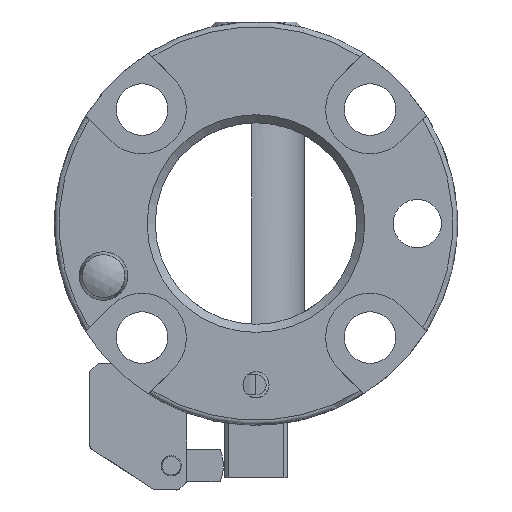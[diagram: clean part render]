
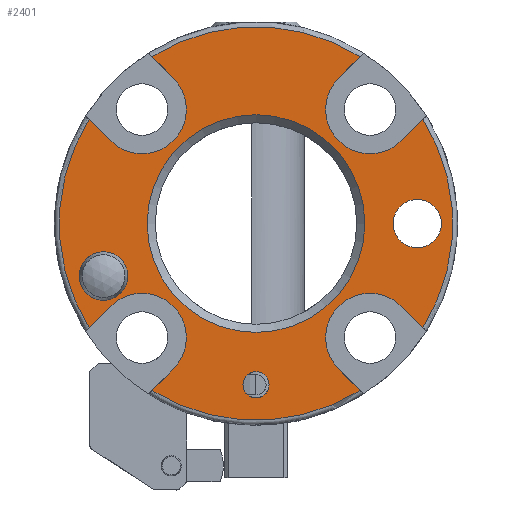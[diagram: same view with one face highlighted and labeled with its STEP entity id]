
A CAD part, front view. The second image highlights one B-rep face of the part: STEP entity #2401.
In plain terms, the highlighted planar face has unit normal (0, -1, 0).
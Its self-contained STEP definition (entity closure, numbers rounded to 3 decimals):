
#1126=CARTESIAN_POINT('',(20.,8.,-3.));
#1127=VERTEX_POINT('',#1126);
#1128=CARTESIAN_POINT('',(20.,8.,0.));
#1129=DIRECTION('',(0.0,1.0,0.0));
#1130=DIRECTION('',(0.0,0.0,1.0));
#1131=AXIS2_PLACEMENT_3D('',#1128,#1129,#1130);
#1132=CIRCLE('',#1131,3.);
#1133=EDGE_CURVE('',#1127,#1127,#1132,.T.);
#1186=CARTESIAN_POINT('',(0.,8.,-21.621));
#1187=VERTEX_POINT('',#1186);
#1188=CARTESIAN_POINT('',(0.,8.,-20.0));
#1189=DIRECTION('',(0.0,1.0,0.0));
#1190=DIRECTION('',(0.0,0.0,1.0));
#1191=AXIS2_PLACEMENT_3D('',#1188,#1189,#1190);
#1192=CIRCLE('',#1191,1.621);
#1193=EDGE_CURVE('',#1187,#1187,#1192,.T.);
#1389=CARTESIAN_POINT('',(0.,8.0,13.5));
#1390=VERTEX_POINT('',#1389);
#1391=CARTESIAN_POINT('',(0.,8.0,0.0));
#1392=DIRECTION('',(0.0,-1.0,0.0));
#1393=DIRECTION('',(0.0,0.0,-1.0));
#1394=AXIS2_PLACEMENT_3D('',#1391,#1392,#1393);
#1395=CIRCLE('',#1394,13.5);
#1396=EDGE_CURVE('',#1390,#1390,#1395,.T.);
#1479=CARTESIAN_POINT('',(18.031,8.,10.253));
#1480=VERTEX_POINT('',#1479);
#1488=CARTESIAN_POINT('',(10.253,8.,18.031));
#1489=VERTEX_POINT('',#1488);
#1496=CARTESIAN_POINT('',(14.142,8.,14.142));
#1497=DIRECTION('',(0.0,1.0,0.0));
#1498=DIRECTION('',(0.0,0.0,-1.0));
#1499=AXIS2_PLACEMENT_3D('',#1496,#1497,#1498);
#1500=CIRCLE('',#1499,5.5);
#1501=EDGE_CURVE('',#1480,#1489,#1500,.T.);
#1511=CARTESIAN_POINT('',(12.92,8.,20.698));
#1512=VERTEX_POINT('',#1511);
#1528=CARTESIAN_POINT('',(10.253,8.,18.031));
#1529=DIRECTION('',(0.707,0.0,0.707));
#1530=VECTOR('',#1529,3.772);
#1531=LINE('',#1528,#1530);
#1532=EDGE_CURVE('',#1489,#1512,#1531,.T.);
#1552=CARTESIAN_POINT('',(20.698,8.,12.92));
#1553=VERTEX_POINT('',#1552);
#1575=CARTESIAN_POINT('',(20.698,8.,12.92));
#1576=DIRECTION('',(-0.707,0.,-0.707));
#1577=VECTOR('',#1576,3.772);
#1578=LINE('',#1575,#1577);
#1579=EDGE_CURVE('',#1553,#1480,#1578,.T.);
#1619=CARTESIAN_POINT('',(10.253,8.,-18.031));
#1620=VERTEX_POINT('',#1619);
#1636=CARTESIAN_POINT('',(18.031,8.,-10.253));
#1637=VERTEX_POINT('',#1636);
#1644=CARTESIAN_POINT('',(14.142,8.,-14.142));
#1645=DIRECTION('',(0.0,1.0,0.0));
#1646=DIRECTION('',(-1.0,0.0,0.0));
#1647=AXIS2_PLACEMENT_3D('',#1644,#1645,#1646);
#1648=CIRCLE('',#1647,5.5);
#1649=EDGE_CURVE('',#1620,#1637,#1648,.T.);
#1696=CARTESIAN_POINT('',(12.92,8.,-20.698));
#1697=VERTEX_POINT('',#1696);
#1719=CARTESIAN_POINT('',(12.92,8.,-20.698));
#1720=DIRECTION('',(-0.707,0.,0.707));
#1721=VECTOR('',#1720,3.772);
#1722=LINE('',#1719,#1721);
#1723=EDGE_CURVE('',#1697,#1620,#1722,.T.);
#1861=CARTESIAN_POINT('',(-18.031,8.,-10.253));
#1862=VERTEX_POINT('',#1861);
#1878=CARTESIAN_POINT('',(-10.253,8.,-18.031));
#1879=VERTEX_POINT('',#1878);
#1886=CARTESIAN_POINT('',(-14.142,8.,-14.142));
#1887=DIRECTION('',(0.0,1.0,0.0));
#1888=DIRECTION('',(0.0,0.0,1.0));
#1889=AXIS2_PLACEMENT_3D('',#1886,#1887,#1888);
#1890=CIRCLE('',#1889,5.5);
#1891=EDGE_CURVE('',#1862,#1879,#1890,.T.);
#1955=CARTESIAN_POINT('',(-20.698,8.,-12.92));
#1956=VERTEX_POINT('',#1955);
#1978=CARTESIAN_POINT('',(-20.698,8.,-12.92));
#1979=DIRECTION('',(0.707,0.,0.707));
#1980=VECTOR('',#1979,3.772);
#1981=LINE('',#1978,#1980);
#1982=EDGE_CURVE('',#1956,#1862,#1981,.T.);
#2022=CARTESIAN_POINT('',(-10.253,8.,18.031));
#2023=VERTEX_POINT('',#2022);
#2039=CARTESIAN_POINT('',(-18.031,8.,10.253));
#2040=VERTEX_POINT('',#2039);
#2047=CARTESIAN_POINT('',(-14.142,8.,14.142));
#2048=DIRECTION('',(0.0,1.0,0.0));
#2049=DIRECTION('',(1.0,0.0,0.0));
#2050=AXIS2_PLACEMENT_3D('',#2047,#2048,#2049);
#2051=CIRCLE('',#2050,5.5);
#2052=EDGE_CURVE('',#2023,#2040,#2051,.T.);
#2147=CARTESIAN_POINT('',(-12.92,8.,20.698));
#2148=VERTEX_POINT('',#2147);
#2170=CARTESIAN_POINT('',(-12.92,8.,20.698));
#2171=DIRECTION('',(0.707,0.,-0.707));
#2172=VECTOR('',#2171,3.772);
#2173=LINE('',#2170,#2172);
#2174=EDGE_CURVE('',#2148,#2023,#2173,.T.);
#2185=CARTESIAN_POINT('',(0.,8.0,0.0));
#2186=DIRECTION('',(0.0,1.0,0.0));
#2187=DIRECTION('',(0.0,0.0,1.0));
#2188=AXIS2_PLACEMENT_3D('',#2185,#2186,#2187);
#2189=CIRCLE('',#2188,24.4);
#2190=EDGE_CURVE('',#2148,#1512,#2189,.T.);
#2208=CARTESIAN_POINT('',(20.698,8.,-12.92));
#2209=VERTEX_POINT('',#2208);
#2225=CARTESIAN_POINT('',(18.031,8.,-10.253));
#2226=DIRECTION('',(0.707,0.,-0.707));
#2227=VECTOR('',#2226,3.772);
#2228=LINE('',#2225,#2227);
#2229=EDGE_CURVE('',#1637,#2209,#2228,.T.);
#2248=CARTESIAN_POINT('',(0.,8.0,0.0));
#2249=DIRECTION('',(0.0,1.0,0.0));
#2250=DIRECTION('',(1.0,0.0,0.0));
#2251=AXIS2_PLACEMENT_3D('',#2248,#2249,#2250);
#2252=CIRCLE('',#2251,24.4);
#2253=EDGE_CURVE('',#1553,#2209,#2252,.T.);
#2289=CARTESIAN_POINT('',(-12.92,8.,-20.698));
#2290=VERTEX_POINT('',#2289);
#2304=CARTESIAN_POINT('',(-10.253,8.,-18.031));
#2305=DIRECTION('',(-0.707,0.,-0.707));
#2306=VECTOR('',#2305,3.772);
#2307=LINE('',#2304,#2306);
#2308=EDGE_CURVE('',#1879,#2290,#2307,.T.);
#2327=CARTESIAN_POINT('',(0.,8.0,0.0));
#2328=DIRECTION('',(0.0,1.0,0.0));
#2329=DIRECTION('',(0.0,0.0,-1.0));
#2330=AXIS2_PLACEMENT_3D('',#2327,#2328,#2329);
#2331=CIRCLE('',#2330,24.4);
#2332=EDGE_CURVE('',#1697,#2290,#2331,.T.);
#2345=CARTESIAN_POINT('',(0.,8.0,0.0));
#2346=DIRECTION('',(0.0,-1.0,0.0));
#2347=DIRECTION('',(0.0,0.0,-1.0));
#2348=AXIS2_PLACEMENT_3D('',#2345,#2346,#2347);
#2349=PLANE('',#2348);
#2350=CARTESIAN_POINT('',(-20.698,8.,12.92));
#2351=VERTEX_POINT('',#2350);
#2352=CARTESIAN_POINT('',(0.,8.0,0.0));
#2353=DIRECTION('',(0.0,1.0,0.0));
#2354=DIRECTION('',(-1.0,0.0,0.0));
#2355=AXIS2_PLACEMENT_3D('',#2352,#2353,#2354);
#2356=CIRCLE('',#2355,24.4);
#2357=EDGE_CURVE('',#1956,#2351,#2356,.T.);
#2358=ORIENTED_EDGE('',*,*,#2357,.F.);
#2359=ORIENTED_EDGE('',*,*,#1982,.T.);
#2360=ORIENTED_EDGE('',*,*,#1891,.T.);
#2361=ORIENTED_EDGE('',*,*,#2308,.T.);
#2362=ORIENTED_EDGE('',*,*,#2332,.F.);
#2363=ORIENTED_EDGE('',*,*,#1723,.T.);
#2364=ORIENTED_EDGE('',*,*,#1649,.T.);
#2365=ORIENTED_EDGE('',*,*,#2229,.T.);
#2366=ORIENTED_EDGE('',*,*,#2253,.F.);
#2367=ORIENTED_EDGE('',*,*,#1579,.T.);
#2368=ORIENTED_EDGE('',*,*,#1501,.T.);
#2369=ORIENTED_EDGE('',*,*,#1532,.T.);
#2370=ORIENTED_EDGE('',*,*,#2190,.F.);
#2371=ORIENTED_EDGE('',*,*,#2174,.T.);
#2372=ORIENTED_EDGE('',*,*,#2052,.T.);
#2373=CARTESIAN_POINT('',(-18.031,8.,10.253));
#2374=DIRECTION('',(-0.707,0.,0.707));
#2375=VECTOR('',#2374,3.772);
#2376=LINE('',#2373,#2375);
#2377=EDGE_CURVE('',#2040,#2351,#2376,.T.);
#2378=ORIENTED_EDGE('',*,*,#2377,.T.);
#2379=EDGE_LOOP('',(#2358,#2359,#2360,#2361,#2362,#2363,#2364,#2365,#2366,#2367,#2368,#2369,#2370,#2371,#2372,#2378));
#2380=FACE_OUTER_BOUND('',#2379,.T.);
#2381=CARTESIAN_POINT('',(-18.91,8.,-9.511));
#2382=VERTEX_POINT('',#2381);
#2383=CARTESIAN_POINT('',(-18.91,8.,-6.511));
#2384=DIRECTION('',(0.0,1.0,0.0));
#2385=DIRECTION('',(0.0,0.0,-1.0));
#2386=AXIS2_PLACEMENT_3D('',#2383,#2384,#2385);
#2387=CIRCLE('',#2386,3.);
#2388=EDGE_CURVE('',#2382,#2382,#2387,.T.);
#2389=ORIENTED_EDGE('',*,*,#2388,.T.);
#2390=EDGE_LOOP('',(#2389));
#2391=FACE_BOUND('',#2390,.T.);
#2392=ORIENTED_EDGE('',*,*,#1133,.T.);
#2393=EDGE_LOOP('',(#2392));
#2394=FACE_BOUND('',#2393,.T.);
#2395=ORIENTED_EDGE('',*,*,#1193,.T.);
#2396=EDGE_LOOP('',(#2395));
#2397=FACE_BOUND('',#2396,.T.);
#2398=ORIENTED_EDGE('',*,*,#1396,.F.);
#2399=EDGE_LOOP('',(#2398));
#2400=FACE_BOUND('',#2399,.T.);
#2401=ADVANCED_FACE('',(#2380,#2391,#2394,#2397,#2400),#2349,.T.);
